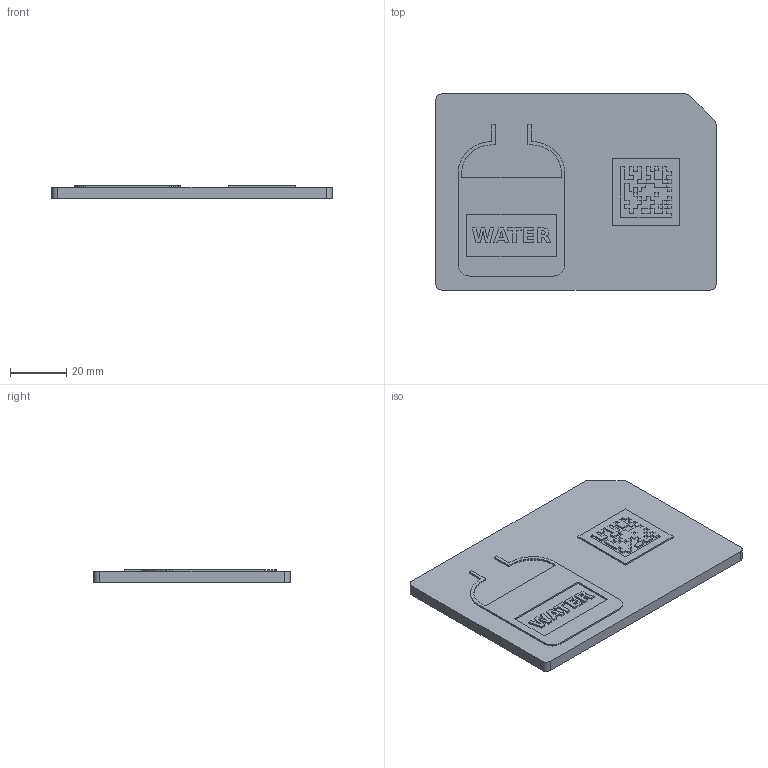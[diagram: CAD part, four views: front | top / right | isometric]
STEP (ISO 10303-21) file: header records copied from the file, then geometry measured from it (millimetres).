
FILE_DESCRIPTION(('Open CASCADE Model'),'2;1');
FILE_NAME('Open CASCADE Shape Model','2026-10-14T18:09:58',('Author'),( 'Open CASCADE'),'Open CASCADE STEP processor 7.9','Open CASCADE 7.9' ,'Unknown');
FILE_SCHEMA(('AUTOMOTIVE_DESIGN { 1 0 10303 214 1 1 1 1 }'));
Length unit declared in the file: millimetre
Products named in the file (3): SN-4812; SN-4812_base_dark; SN-4812_features_red
Assembly tree (2 placements, depth 2):
  SN-4812
    SN-4812_base_dark
    SN-4812_features_red
Bounding box: 100 x 70 x 4.6 mm (x, y, z)
Volume: 28629.6 mm3; surface area: 19843.8 mm2
Topology: 8 solids, 8 shells, 667 faces, 1884 edges, 1256 vertices
Faces by surface type: plane 662, cylinder 5
Entity records: 45164 total; most frequent: CARTESIAN_POINT 8208, DIRECTION 6382, LINE 5014, VECTOR 5014, ORIENTED_EDGE 3768, PCURVE 3768, DEFINITIONAL_REPRESENTATION 3768, EDGE_CURVE 1884
